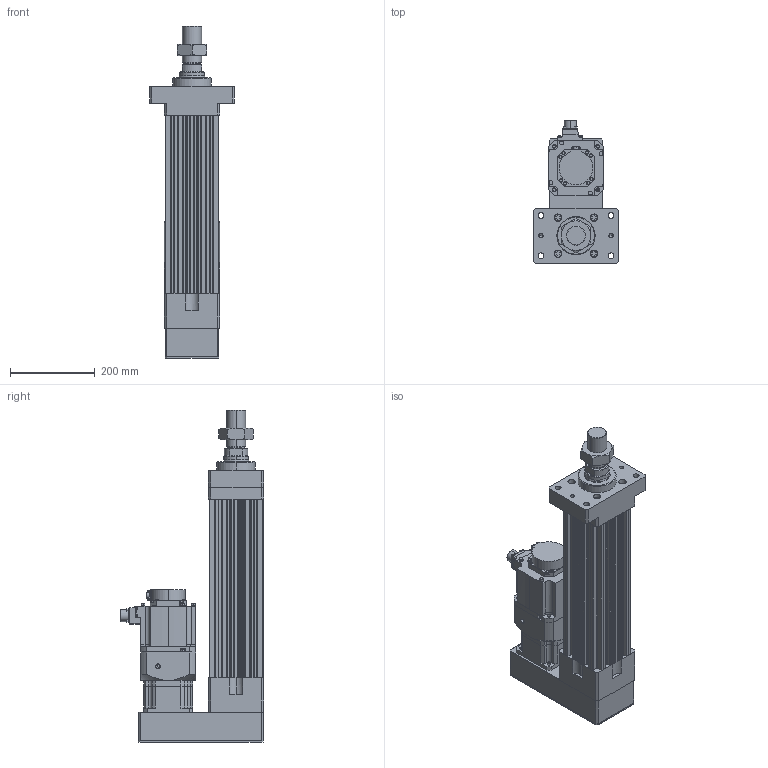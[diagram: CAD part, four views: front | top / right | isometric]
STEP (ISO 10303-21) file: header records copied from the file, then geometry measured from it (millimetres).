
FILE_DESCRIPTION (( 'STEP AP203' ), '1' );
FILE_NAME ('HES130NS(FS)(HS)-P200-W015G00-M-FMA.STEP', '2023-01-29T04:31:53', ( 'tms' ), ( '' ), 'SwSTEP 2.0', 'SolidWorks 2013', '' );
FILE_SCHEMA (( 'CONFIG_CONTROL_DESIGN' ));
Length unit declared in the file: millimetre
Products named in the file (8): HES130 ROD M ST200; P0401400706; M45X1.5P; AB115-003[HG-SR152]; AB1151; HG-SR152; HES130-P200-G120-FMA; HES130NS(FS)(HS)-P200-W015G00-M-FMA
Assembly tree (7 placements, depth 3):
  HES130NS(FS)(HS)-P200-W015G00-M-FMA
    HES130-P200-G120-FMA
    HES130 ROD M ST200
    M45X1.5P
    AB115-003[HG-SR152]
      AB1151
      P0401400706
    HG-SR152
Bounding box: 200 x 337.49 x 782 mm (x, y, z)
Volume: 10033831.9 mm3; surface area: 1125090.6 mm2
Topology: 4 solids, 11 shells, 1082 faces, 2768 edges, 1799 vertices
Faces by surface type: cylinder 513, plane 489, cone 68, bspline 8, torus 4
Entity records: 34626 total; most frequent: CARTESIAN_POINT 6632, DIRECTION 5993, ORIENTED_EDGE 5484, EDGE_CURVE 2752, AXIS2_PLACEMENT_3D 2228, VERTEX_POINT 1799, LINE 1537, VECTOR 1537
